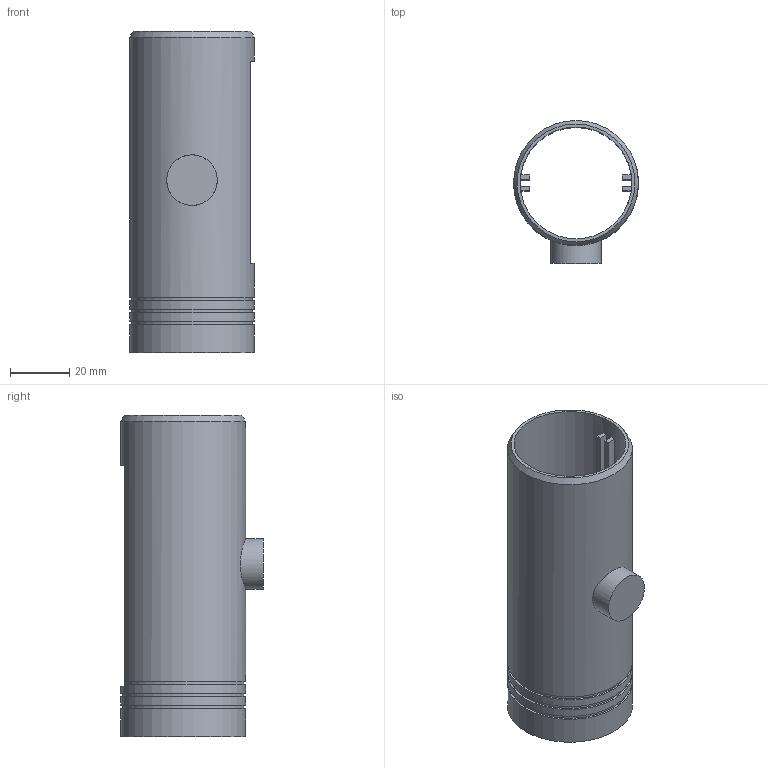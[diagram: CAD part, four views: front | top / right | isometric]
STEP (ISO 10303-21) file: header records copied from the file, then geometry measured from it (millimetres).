
FILE_DESCRIPTION(('Open CASCADE Model'),'2;1');
FILE_NAME('Open CASCADE Shape Model','2026-11-19T20:29:08',('Author'),( 'Open CASCADE'),'Open CASCADE STEP processor 8.0','build123d', 'Unknown');
FILE_SCHEMA(('AUTOMOTIVE_DESIGN { 1 0 10303 214 1 1 1 1 }'));
Length unit declared in the file: millimetre
Products named in the file (1): COMPOUND
Bounding box: 42 x 48 x 108 mm (x, y, z)
Volume: 30513.1 mm3; surface area: 30444.4 mm2
Topology: 1 solids, 1 shells, 62 faces, 182 edges, 121 vertices
Faces by surface type: plane 51, cylinder 10, cone 1
Full cylindrical faces by diameter (mm): 2.7 x1, 17 x1, 37.6 x1, 40.7 x2, 42 x4
Entity records: 5022 total; most frequent: CARTESIAN_POINT 1562, DIRECTION 578, ORIENTED_EDGE 364, PCURVE 364, DEFINITIONAL_REPRESENTATION 364, LINE 309, VECTOR 309, EDGE_CURVE 182
